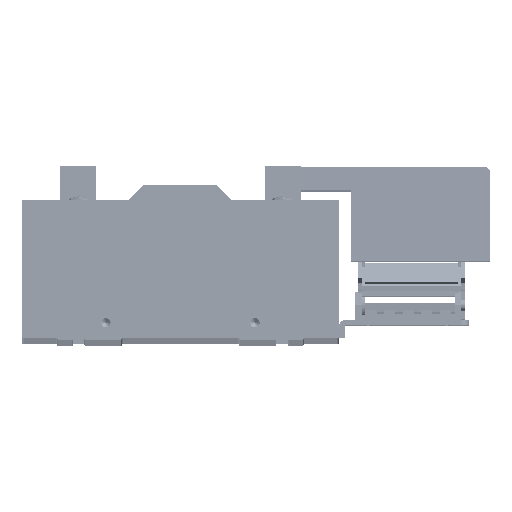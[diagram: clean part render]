
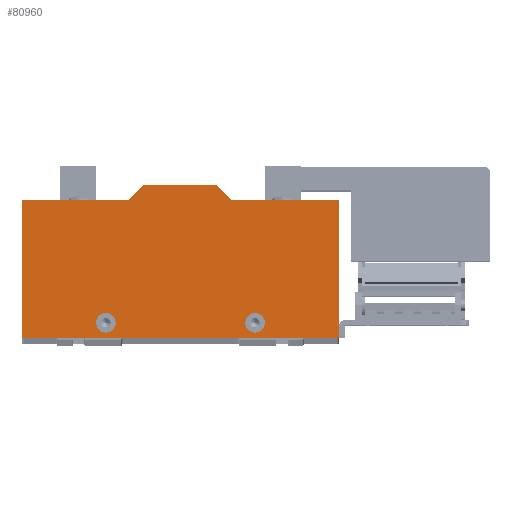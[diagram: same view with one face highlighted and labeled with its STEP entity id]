
A CAD part, top view. The second image highlights one B-rep face of the part: STEP entity #80960.
In plain terms, the highlighted planar face has unit normal (0, 0, 1).
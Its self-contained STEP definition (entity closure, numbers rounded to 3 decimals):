
#3094 = CARTESIAN_POINT ( 'NONE',  ( -85., 37., 9.525 ) ) ;
#3095 = LINE ( 'NONE', #3100, #3099 ) ;
#3098 = DIRECTION ( 'NONE',  ( 0., -1., 0. ) ) ;
#3099 = VECTOR ( 'NONE', #3098, 1000. ) ;
#3100 = CARTESIAN_POINT ( 'NONE',  ( -85., 37., 9.525 ) ) ;
#11230 = CARTESIAN_POINT ( 'NONE',  ( 85., 37., 9.525 ) ) ;
#11744 = CARTESIAN_POINT ( 'NONE',  ( -85., -37., 9.525 ) ) ;
#12002 = DIRECTION ( 'NONE',  ( 0., 1., 0. ) ) ;
#12004 = VECTOR ( 'NONE', #12002, 1000. ) ;
#12006 = CARTESIAN_POINT ( 'NONE',  ( 85., 37., 9.525 ) ) ;
#12008 = LINE ( 'NONE', #12006, #12004 ) ;
#13091 = CARTESIAN_POINT ( 'NONE',  ( -34.75, -29., 9.525 ) ) ;
#15714 = AXIS2_PLACEMENT_3D ( 'NONE', #15732, #15731, #15790 ) ;
#15717 = CIRCLE ( 'NONE', #15714, 5.25 ) ;
#15731 = DIRECTION ( 'NONE',  ( 0., 0., 1. ) ) ;
#15732 = CARTESIAN_POINT ( 'NONE',  ( 40., -29., 9.525 ) ) ;
#15790 = DIRECTION ( 'NONE',  ( 1., 0., 0. ) ) ;
#23697 = DIRECTION ( 'NONE',  ( 1., 0., 0. ) ) ;
#23708 = VECTOR ( 'NONE', #23697, 1000. ) ;
#23709 = CARTESIAN_POINT ( 'NONE',  ( -85., -37., 9.525 ) ) ;
#24037 = LINE ( 'NONE', #23709, #23708 ) ;
#31272 = DIRECTION ( 'NONE',  ( -0.707, -0.707, 0. ) ) ;
#31273 = VECTOR ( 'NONE', #31272, 1000. ) ;
#31274 = CARTESIAN_POINT ( 'NONE',  ( -27.5, 37., 9.525 ) ) ;
#31275 = LINE ( 'NONE', #31274, #31273 ) ;
#31292 = CARTESIAN_POINT ( 'NONE',  ( -27.5, 37., 9.525 ) ) ;
#31302 = DIRECTION ( 'NONE',  ( -1., 0., 0. ) ) ;
#31303 = VECTOR ( 'NONE', #31302, 1000. ) ;
#31304 = CARTESIAN_POINT ( 'NONE',  ( 27.5, 37., 9.525 ) ) ;
#31305 = LINE ( 'NONE', #31304, #31303 ) ;
#31567 = CARTESIAN_POINT ( 'NONE',  ( -19.5, 45., 9.525 ) ) ;
#31627 = CARTESIAN_POINT ( 'NONE',  ( -40., -29., 9.525 ) ) ;
#31641 = DIRECTION ( 'NONE',  ( 1., 0., 0. ) ) ;
#31644 = DIRECTION ( 'NONE',  ( 0., 0., 1. ) ) ;
#31646 = CARTESIAN_POINT ( 'NONE',  ( -85., 37., 9.525 ) ) ;
#31647 = AXIS2_PLACEMENT_3D ( 'NONE', #31646, #31644, #31641 ) ;
#31649 = PLANE ( 'NONE',  #31647 ) ;
#31650 = FACE_OUTER_BOUND ( 'NONE', #80990, .T. ) ;
#31651 = FACE_BOUND ( 'NONE', #80968, .T. ) ;
#31654 = FACE_BOUND ( 'NONE', #80961, .T. ) ;
#31658 = DIRECTION ( 'NONE',  ( -1., 0., 0. ) ) ;
#31660 = VECTOR ( 'NONE', #31658, 1000. ) ;
#31661 = CARTESIAN_POINT ( 'NONE',  ( -85., 37., 9.525 ) ) ;
#31662 = LINE ( 'NONE', #31661, #31660 ) ;
#31711 = DIRECTION ( 'NONE',  ( -1., 0., 0. ) ) ;
#31713 = VECTOR ( 'NONE', #31711, 1000. ) ;
#31714 = CARTESIAN_POINT ( 'NONE',  ( -19.5, 45., 9.525 ) ) ;
#31715 = LINE ( 'NONE', #31714, #31713 ) ;
#31742 = CARTESIAN_POINT ( 'NONE',  ( 27.5, 37., 9.525 ) ) ;
#31745 = DIRECTION ( 'NONE',  ( -0.707, 0.707, 0. ) ) ;
#31746 = VECTOR ( 'NONE', #31745, 1000. ) ;
#31747 = CARTESIAN_POINT ( 'NONE',  ( 19.5, 45., 9.525 ) ) ;
#31748 = LINE ( 'NONE', #31747, #31746 ) ;
#31751 = CARTESIAN_POINT ( 'NONE',  ( 19.5, 45., 9.525 ) ) ;
#31753 = DIRECTION ( 'NONE',  ( 1., 0., 0. ) ) ;
#31755 = DIRECTION ( 'NONE',  ( 0., 0., 1. ) ) ;
#31756 = AXIS2_PLACEMENT_3D ( 'NONE', #31627, #31755, #31753 ) ;
#31758 = CIRCLE ( 'NONE', #31756, 5.25 ) ;
#33766 = EDGE_CURVE ( 'NONE', #33772, #33866, #3095, .T. ) ;
#33772 = VERTEX_POINT ( 'NONE', #3094 ) ;
#33797 = EDGE_CURVE ( 'NONE', #33866, #34939, #24037, .T. ) ;
#33818 = VERTEX_POINT ( 'NONE', #11230 ) ;
#33851 = EDGE_CURVE ( 'NONE', #34939, #33818, #12008, .T. ) ;
#33866 = VERTEX_POINT ( 'NONE', #11744 ) ;
#34422 = VERTEX_POINT ( 'NONE', #145655 ) ;
#34426 = EDGE_CURVE ( 'NONE', #34422, #34431, #141576, .T. ) ;
#34431 = VERTEX_POINT ( 'NONE', #13091 ) ;
#34525 = VERTEX_POINT ( 'NONE', #64387 ) ;
#34527 = EDGE_CURVE ( 'NONE', #34525, #34528, #64550, .T. ) ;
#34528 = VERTEX_POINT ( 'NONE', #64457 ) ;
#34939 = VERTEX_POINT ( 'NONE', #55811 ) ;
#55811 = CARTESIAN_POINT ( 'NONE',  ( 85., -37., 9.525 ) ) ;
#64387 = CARTESIAN_POINT ( 'NONE',  ( 34.75, -29., 9.525 ) ) ;
#64457 = CARTESIAN_POINT ( 'NONE',  ( 45.25, -29., 9.525 ) ) ;
#64548 = DIRECTION ( 'NONE',  ( 0., 0., 1. ) ) ;
#64550 = CIRCLE ( 'NONE', #64565, 5.25 ) ;
#64562 = CARTESIAN_POINT ( 'NONE',  ( 40., -29., 9.525 ) ) ;
#64565 = AXIS2_PLACEMENT_3D ( 'NONE', #64562, #64548, #64676 ) ;
#64676 = DIRECTION ( 'NONE',  ( 1., 0., 0. ) ) ;
#80848 = EDGE_CURVE ( 'NONE', #33818, #80972, #31305, .T. ) ;
#80860 = VERTEX_POINT ( 'NONE', #31292 ) ;
#80865 = EDGE_CURVE ( 'NONE', #80936, #80860, #31275, .T. ) ;
#80936 = VERTEX_POINT ( 'NONE', #31567 ) ;
#80956 = EDGE_CURVE ( 'NONE', #80860, #33772, #31662, .T. ) ;
#80960 = ADVANCED_FACE ( 'NONE', ( #31654, #31651, #31650 ), #31649, .T. ) ;
#80961 = EDGE_LOOP ( 'NONE', ( #80965, #80967 ) ) ;
#80965 = ORIENTED_EDGE ( 'NONE', *, *, #80966, .F. ) ;
#80966 = EDGE_CURVE ( 'NONE', #34431, #34422, #31758, .T. ) ;
#80967 = ORIENTED_EDGE ( 'NONE', *, *, #34426, .F. ) ;
#80968 = EDGE_LOOP ( 'NONE', ( #80986, #80989 ) ) ;
#80969 = VERTEX_POINT ( 'NONE', #31751 ) ;
#80971 = EDGE_CURVE ( 'NONE', #80972, #80969, #31748, .T. ) ;
#80972 = VERTEX_POINT ( 'NONE', #31742 ) ;
#80981 = EDGE_CURVE ( 'NONE', #80969, #80936, #31715, .T. ) ;
#80986 = ORIENTED_EDGE ( 'NONE', *, *, #80987, .F. ) ;
#80987 = EDGE_CURVE ( 'NONE', #34528, #34525, #15717, .T. ) ;
#80989 = ORIENTED_EDGE ( 'NONE', *, *, #34527, .F. ) ;
#80990 = EDGE_LOOP ( 'NONE', ( #81471, #81528, #81554, #81630, #81638, #81642, #81625, #81568 ) ) ;
#81471 = ORIENTED_EDGE ( 'NONE', *, *, #33766, .T. ) ;
#81528 = ORIENTED_EDGE ( 'NONE', *, *, #33797, .T. ) ;
#81554 = ORIENTED_EDGE ( 'NONE', *, *, #33851, .T. ) ;
#81568 = ORIENTED_EDGE ( 'NONE', *, *, #80956, .T. ) ;
#81625 = ORIENTED_EDGE ( 'NONE', *, *, #80865, .T. ) ;
#81630 = ORIENTED_EDGE ( 'NONE', *, *, #80848, .T. ) ;
#81638 = ORIENTED_EDGE ( 'NONE', *, *, #80971, .T. ) ;
#81642 = ORIENTED_EDGE ( 'NONE', *, *, #80981, .T. ) ;
#140334 = DIRECTION ( 'NONE',  ( 1., 0., 0. ) ) ;
#140543 = DIRECTION ( 'NONE',  ( 0., 0., 1. ) ) ;
#141573 = CARTESIAN_POINT ( 'NONE',  ( -40., -29., 9.525 ) ) ;
#141574 = AXIS2_PLACEMENT_3D ( 'NONE', #141573, #140543, #140334 ) ;
#141576 = CIRCLE ( 'NONE', #141574, 5.25 ) ;
#145655 = CARTESIAN_POINT ( 'NONE',  ( -45.25, -29., 9.525 ) ) ;
